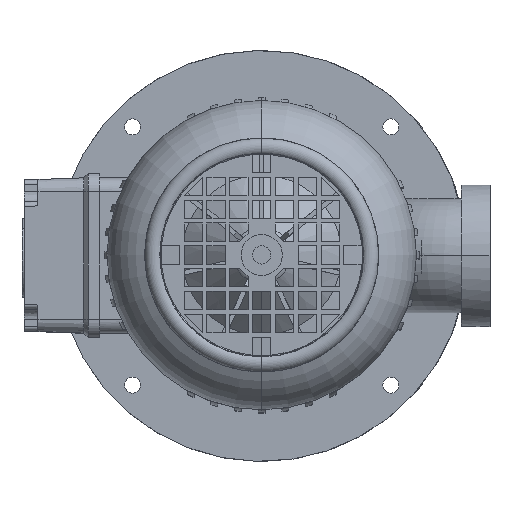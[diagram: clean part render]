
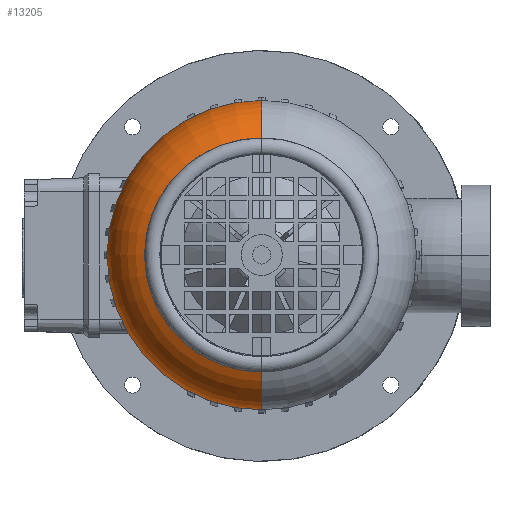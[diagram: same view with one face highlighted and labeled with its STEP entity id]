
A CAD part, top view. The second image highlights one B-rep face of the part: STEP entity #13205.
In plain terms, the highlighted toroidal (fillet/blend) face has major radius 39.75 mm and minor radius 28 mm.
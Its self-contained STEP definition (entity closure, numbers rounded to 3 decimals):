
#5091=EDGE_CURVE('',#11243,#8183,#14215,.T.);
#8183=VERTEX_POINT('',#17651);
#8937=EDGE_CURVE('',#9381,#8183,#18476,.T.);
#9381=VERTEX_POINT('',#18959);
#9881=EDGE_CURVE('',#11995,#11243,#19517,.T.);
#11243=VERTEX_POINT('',#21009);
#11369=EDGE_CURVE('',#9381,#11995,#21149,.T.);
#11995=VERTEX_POINT('',#21848);
#13205=ADVANCED_FACE('',(#23181),#23182,.T.);
#14215=CIRCLE('',#24691,28.);
#17651=CARTESIAN_POINT('',(0.0,51.25,194.529));
#18476=CIRCLE('',#33145,51.25);
#18959=CARTESIAN_POINT('',(0.,-51.25,194.529));
#19517=CIRCLE('',#35068,67.75);
#21009=CARTESIAN_POINT('',(0.0,67.75,169.));
#21149=CIRCLE('',#38169,28.);
#21848=CARTESIAN_POINT('',(0.,-67.75,169.));
#23181=FACE_OUTER_BOUND('',#42192,.T.);
#23182=TOROIDAL_SURFACE('',#42193,39.75,28.);
#24691=AXIS2_PLACEMENT_3D('',#43773,#43774,#43775);
#33145=AXIS2_PLACEMENT_3D('',#48464,#48465,#48466);
#35068=AXIS2_PLACEMENT_3D('',#49603,#49604,#49605);
#38169=AXIS2_PLACEMENT_3D('',#51373,#51374,#51375);
#42192=EDGE_LOOP('',(#53578,#53579,#53580,#53581));
#42193=AXIS2_PLACEMENT_3D('',#53582,#53583,#53584);
#43773=CARTESIAN_POINT('',(0.,39.75,169.));
#43774=DIRECTION('',(1.0,0.,0.0));
#43775=DIRECTION('',(0.,1.0,0.0));
#48464=CARTESIAN_POINT('',(0.0,0.0,194.529));
#48465=DIRECTION('',(0.0,0.0,-1.0));
#48466=DIRECTION('',(0.0,1.0,0.0));
#49603=CARTESIAN_POINT('',(0.0,0.0,169.));
#49604=DIRECTION('',(0.0,0.0,-1.0));
#49605=DIRECTION('',(0.0,1.0,0.0));
#51373=CARTESIAN_POINT('',(0.,-39.75,169.));
#51374=DIRECTION('',(1.0,0.,0.0));
#51375=DIRECTION('',(0.,-1.0,-0.0));
#53578=ORIENTED_EDGE('',*,*,#11369,.F.);
#53579=ORIENTED_EDGE('',*,*,#8937,.T.);
#53580=ORIENTED_EDGE('',*,*,#5091,.F.);
#53581=ORIENTED_EDGE('',*,*,#9881,.F.);
#53582=CARTESIAN_POINT('',(0.0,0.0,169.));
#53583=DIRECTION('',(0.0,0.0,-1.0));
#53584=DIRECTION('',(0.0,-1.0,0.0));
